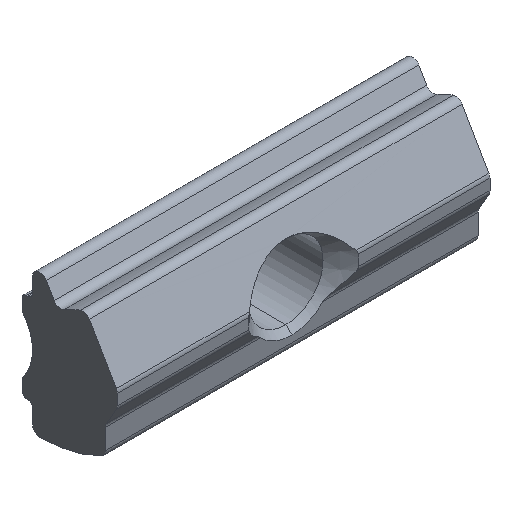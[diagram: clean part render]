
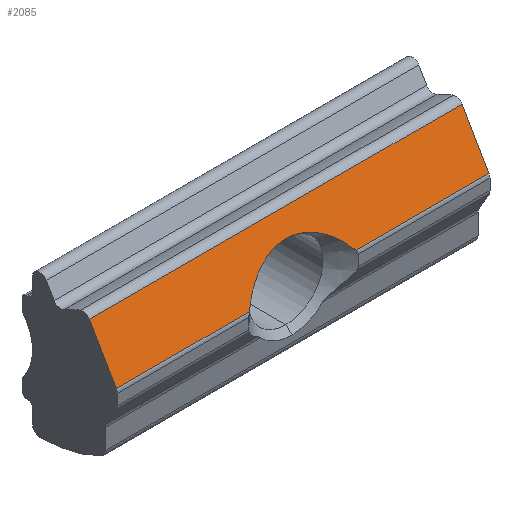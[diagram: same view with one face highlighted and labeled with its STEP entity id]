
A CAD part, isometric view. The second image highlights one B-rep face of the part: STEP entity #2085.
In plain terms, the highlighted planar face has unit normal (0, -0.866, 0.5).
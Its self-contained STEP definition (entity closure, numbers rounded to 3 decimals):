
#1821=CARTESIAN_POINT('',(15.392,0.229,8.109));
#1822=VERTEX_POINT('',#1821);
#1830=CARTESIAN_POINT('',(6.474,0.229,8.109));
#1831=VERTEX_POINT('',#1830);
#1832=CARTESIAN_POINT('',(6.474,0.229,8.109));
#1833=DIRECTION('',(1.0,0.,0.));
#1834=VECTOR('',#1833,8.918);
#1835=LINE('',#1832,#1834);
#1836=EDGE_CURVE('',#1831,#1822,#1835,.T.);
#1862=CARTESIAN_POINT('',(15.392,2.033,11.234));
#1863=VERTEX_POINT('',#1862);
#1871=CARTESIAN_POINT('',(15.392,0.229,8.109));
#1872=DIRECTION('',(0.0,0.5,0.866));
#1873=VECTOR('',#1872,3.608);
#1874=LINE('',#1871,#1873);
#1875=EDGE_CURVE('',#1822,#1863,#1874,.T.);
#1909=CARTESIAN_POINT('',(-9.608,2.033,11.234));
#1910=VERTEX_POINT('',#1909);
#1918=CARTESIAN_POINT('',(15.392,2.033,11.234));
#1919=DIRECTION('',(-1.0,0.0,0.0));
#1920=VECTOR('',#1919,25.0);
#1921=LINE('',#1918,#1920);
#1922=EDGE_CURVE('',#1863,#1910,#1921,.T.);
#1957=CARTESIAN_POINT('',(-9.608,0.229,8.109));
#1958=VERTEX_POINT('',#1957);
#1966=CARTESIAN_POINT('',(-9.608,2.033,11.234));
#1967=DIRECTION('',(0.0,-0.5,-0.866));
#1968=VECTOR('',#1967,3.608);
#1969=LINE('',#1966,#1968);
#1970=EDGE_CURVE('',#1910,#1958,#1969,.T.);
#1985=CARTESIAN_POINT('',(-0.689,0.229,8.109));
#1986=VERTEX_POINT('',#1985);
#1994=CARTESIAN_POINT('',(-9.608,0.229,8.109));
#1995=DIRECTION('',(1.0,0.,0.));
#1996=VECTOR('',#1995,8.918);
#1997=LINE('',#1994,#1996);
#1998=EDGE_CURVE('',#1958,#1986,#1997,.T.);
#2039=CARTESIAN_POINT('',(15.392,1.597,10.479));
#2040=DIRECTION('',(0.0,-0.866,0.5));
#2041=DIRECTION('',(1.0,0.0,0.0));
#2042=AXIS2_PLACEMENT_3D('',#2039,#2040,#2041);
#2043=PLANE('',#2042);
#2044=ORIENTED_EDGE('',*,*,#1970,.T.);
#2045=ORIENTED_EDGE('',*,*,#1998,.T.);
#2046=CARTESIAN_POINT('',(0.202,0.765,9.036));
#2047=VERTEX_POINT('',#2046);
#2048=CARTESIAN_POINT('',(-0.689,0.229,8.109));
#2049=CARTESIAN_POINT('',(-0.434,0.424,8.447));
#2050=CARTESIAN_POINT('',(-0.138,0.606,8.761));
#2051=CARTESIAN_POINT('',(0.202,0.765,9.036));
#2052=B_SPLINE_CURVE_WITH_KNOTS('',3,(#2048,#2049,#2050,#2051),.UNSPECIFIED.,.F.,.U.,(4,4),(0.0,0.156),.UNSPECIFIED.);
#2053=EDGE_CURVE('',#1986,#2047,#2052,.T.);
#2054=ORIENTED_EDGE('',*,*,#2053,.T.);
#2055=CARTESIAN_POINT('',(2.892,1.335,10.027));
#2056=VERTEX_POINT('',#2055);
#2057=CARTESIAN_POINT('',(2.892,1.336,10.026));
#2058=CARTESIAN_POINT('',(2.339,1.336,10.026));
#2059=CARTESIAN_POINT('',(1.789,1.267,9.907));
#2060=CARTESIAN_POINT('',(1.293,1.146,9.696));
#2061=CARTESIAN_POINT('',(0.893,1.048,9.526));
#2062=CARTESIAN_POINT('',(0.528,0.917,9.3));
#2063=CARTESIAN_POINT('',(0.202,0.765,9.036));
#2064=B_SPLINE_CURVE_WITH_KNOTS('',3,(#2057,#2058,#2059,#2060,#2061,#2062,#2063),.UNSPECIFIED.,.F.,.U.,(4,3,4),(0.,0.554,1.0),.UNSPECIFIED.);
#2065=EDGE_CURVE('',#2056,#2047,#2064,.T.);
#2066=ORIENTED_EDGE('',*,*,#2065,.F.);
#2067=CARTESIAN_POINT('',(6.474,0.229,8.109));
#2068=CARTESIAN_POINT('',(6.073,0.535,8.64));
#2069=CARTESIAN_POINT('',(5.568,0.81,9.116));
#2070=CARTESIAN_POINT('',(4.957,1.012,9.465));
#2071=CARTESIAN_POINT('',(4.477,1.171,9.74));
#2072=CARTESIAN_POINT('',(3.932,1.281,9.931));
#2073=CARTESIAN_POINT('',(3.363,1.32,9.998));
#2074=CARTESIAN_POINT('',(3.207,1.331,10.017));
#2075=CARTESIAN_POINT('',(3.05,1.336,10.026));
#2076=CARTESIAN_POINT('',(2.892,1.336,10.026));
#2077=B_SPLINE_CURVE_WITH_KNOTS('',3,(#2067,#2068,#2069,#2070,#2071,#2072,#2073,#2074,#2075,#2076),.UNSPECIFIED.,.F.,.U.,(4,3,3,4),(0.0,0.5,0.893,1.),.UNSPECIFIED.);
#2078=EDGE_CURVE('',#1831,#2056,#2077,.T.);
#2079=ORIENTED_EDGE('',*,*,#2078,.F.);
#2080=ORIENTED_EDGE('',*,*,#1836,.T.);
#2081=ORIENTED_EDGE('',*,*,#1875,.T.);
#2082=ORIENTED_EDGE('',*,*,#1922,.T.);
#2083=EDGE_LOOP('',(#2044,#2045,#2054,#2066,#2079,#2080,#2081,#2082));
#2084=FACE_OUTER_BOUND('',#2083,.T.);
#2085=ADVANCED_FACE('',(#2084),#2043,.T.);
